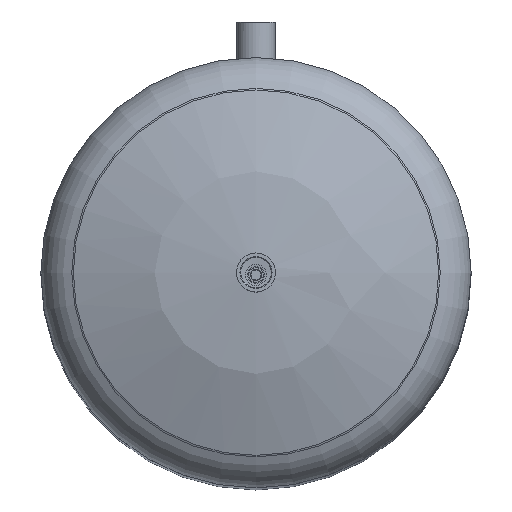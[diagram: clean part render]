
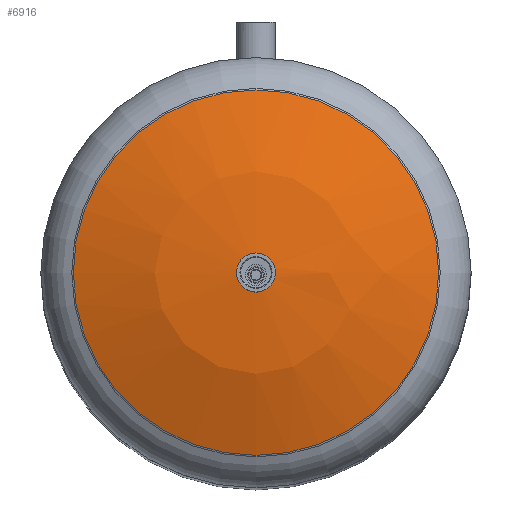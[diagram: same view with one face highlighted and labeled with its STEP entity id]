
A CAD part, top view. The second image highlights one B-rep face of the part: STEP entity #6916.
In plain terms, the highlighted free-form (B-spline) face has degree [2, 2] with [3, 9] control points.
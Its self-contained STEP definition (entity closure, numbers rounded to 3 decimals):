
#6859=CARTESIAN_POINT('',(0.,156.734,1662.522));
#6860=CARTESIAN_POINT('',(0.,44.563,1709.064));
#6861=CARTESIAN_POINT('',(0.,-76.797,1704.582));
#6862=CARTESIAN_POINT('',(233.532,156.734,1662.522));
#6863=CARTESIAN_POINT('',(121.36,44.563,1709.064));
#6864=CARTESIAN_POINT('',(0.,-76.797,1704.582));
#6865=CARTESIAN_POINT('',(233.532,-76.797,1662.522));
#6866=CARTESIAN_POINT('',(121.36,-76.797,1709.064));
#6867=CARTESIAN_POINT('',(0.,-76.797,1704.582));
#6868=CARTESIAN_POINT('',(233.532,-310.329,1662.522));
#6869=CARTESIAN_POINT('',(121.36,-198.158,1709.064));
#6870=CARTESIAN_POINT('',(0.,-76.797,1704.582));
#6871=CARTESIAN_POINT('',(0.,-310.329,1662.522));
#6872=CARTESIAN_POINT('',(0.,-198.158,1709.064));
#6873=CARTESIAN_POINT('',(0.,-76.797,1704.582));
#6874=CARTESIAN_POINT('',(-233.532,-310.329,1662.522));
#6875=CARTESIAN_POINT('',(-121.36,-198.158,1709.064));
#6876=CARTESIAN_POINT('',(0.,-76.797,1704.582));
#6877=CARTESIAN_POINT('',(-233.532,-76.797,1662.522));
#6878=CARTESIAN_POINT('',(-121.36,-76.797,1709.064));
#6879=CARTESIAN_POINT('',(0.,-76.797,1704.582));
#6880=CARTESIAN_POINT('',(-233.532,156.734,1662.522));
#6881=CARTESIAN_POINT('',(-121.36,44.563,1709.064));
#6882=CARTESIAN_POINT('',(0.,-76.797,1704.582));
#6883=CARTESIAN_POINT('',(0.,156.734,1662.522));
#6884=CARTESIAN_POINT('',(0.,44.563,1709.064));
#6885=CARTESIAN_POINT('',(0.,-76.797,1704.582));
#6893=(BOUNDED_SURFACE()B_SPLINE_SURFACE(2,2,((#6859,#6862,#6865,#6868,#6871,#6874,#6877,#6880,#6883),(#6860,#6863,#6866,#6869,#6872,#6875,#6878,#6881,#6884),(#6861,#6864,#6867,#6870,#6873,#6876,#6879,#6882,#6885)),.UNSPECIFIED.,.F.,.T.,.U.)B_SPLINE_SURFACE_WITH_KNOTS((3,3),(3,2,2,2,3),(1.177,1.608),(0.0,1.571,3.142,4.712,6.283),.UNSPECIFIED.)GEOMETRIC_REPRESENTATION_ITEM()RATIONAL_B_SPLINE_SURFACE(((1.0,0.707,1.0,0.707,1.0,0.707,1.0,0.707,1.0),(0.977,0.691,0.977,0.691,0.977,0.691,0.977,0.691,0.977),(1.0,0.707,1.0,0.707,1.0,0.707,1.0,0.707,1.0)))REPRESENTATION_ITEM('')SURFACE());
#6894=CARTESIAN_POINT('',(20.955,-76.797,1704.961));
#6895=VERTEX_POINT('',#6894);
#6896=CARTESIAN_POINT('',(0.,-76.797,1704.961));
#6897=DIRECTION('',(0.,0.,-1.0));
#6898=DIRECTION('',(-1.0,0.,0.));
#6899=AXIS2_PLACEMENT_3D('',#6896,#6897,#6898);
#6900=CIRCLE('',#6899,20.955);
#6901=EDGE_CURVE('',#6895,#6895,#6900,.T.);
#6902=ORIENTED_EDGE('',*,*,#6901,.T.);
#6903=EDGE_LOOP('',(#6902));
#6904=FACE_OUTER_BOUND('',#6903,.T.);
#6905=CARTESIAN_POINT('',(233.532,-76.797,1662.522));
#6906=VERTEX_POINT('',#6905);
#6907=CARTESIAN_POINT('',(0.,-76.797,1662.522));
#6908=DIRECTION('',(0.,0.,1.0));
#6909=DIRECTION('',(1.0,0.,0.));
#6910=AXIS2_PLACEMENT_3D('',#6907,#6908,#6909);
#6911=CIRCLE('',#6910,233.532);
#6912=EDGE_CURVE('',#6906,#6906,#6911,.T.);
#6913=ORIENTED_EDGE('',*,*,#6912,.T.);
#6914=EDGE_LOOP('',(#6913));
#6915=FACE_BOUND('',#6914,.T.);
#6916=ADVANCED_FACE('',(#6904,#6915),#6893,.T.);
